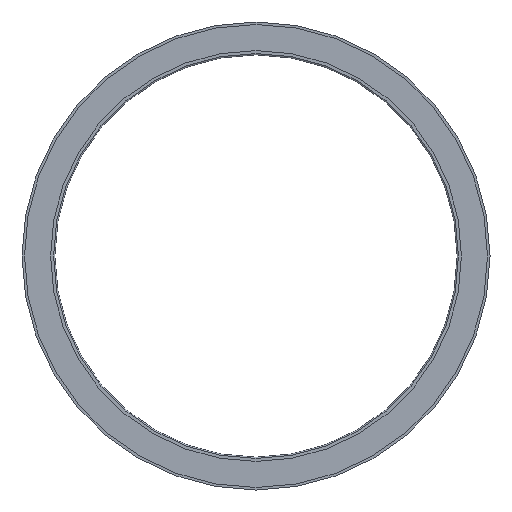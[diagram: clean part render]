
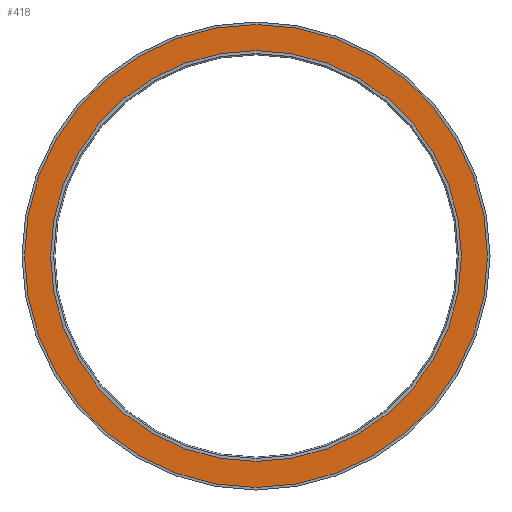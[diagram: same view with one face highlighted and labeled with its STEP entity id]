
A CAD part, left-side view. The second image highlights one B-rep face of the part: STEP entity #418.
In plain terms, the highlighted planar face has unit normal (-1, 0, 0).
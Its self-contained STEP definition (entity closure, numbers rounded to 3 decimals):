
#384=CARTESIAN_POINT('',(2.,162.4,0.0));
#385=VERTEX_POINT('',#384);
#386=CARTESIAN_POINT('',(2.,0.0,0.0));
#387=DIRECTION('',(1.0,0.0,0.0));
#388=DIRECTION('',(0.0,1.0,0.0));
#389=AXIS2_PLACEMENT_3D('',#386,#387,#388);
#390=CIRCLE('',#389,162.4);
#391=EDGE_CURVE('',#385,#385,#390,.T.);
#399=CARTESIAN_POINT('',(2.,172.7,0.0));
#400=DIRECTION('',(-1.0,0.0,0.0));
#401=DIRECTION('',(0.0,0.0,1.0));
#402=AXIS2_PLACEMENT_3D('',#399,#400,#401);
#403=PLANE('',#402);
#404=CARTESIAN_POINT('',(2.,183.0,0.0));
#405=VERTEX_POINT('',#404);
#406=CARTESIAN_POINT('',(2.,0.0,0.0));
#407=DIRECTION('',(1.0,0.0,0.0));
#408=DIRECTION('',(0.0,1.0,0.0));
#409=AXIS2_PLACEMENT_3D('',#406,#407,#408);
#410=CIRCLE('',#409,183.0);
#411=EDGE_CURVE('',#405,#405,#410,.T.);
#412=ORIENTED_EDGE('',*,*,#411,.F.);
#413=EDGE_LOOP('',(#412));
#414=FACE_OUTER_BOUND('',#413,.T.);
#415=ORIENTED_EDGE('',*,*,#391,.T.);
#416=EDGE_LOOP('',(#415));
#417=FACE_BOUND('',#416,.T.);
#418=ADVANCED_FACE('',(#414,#417),#403,.T.);
